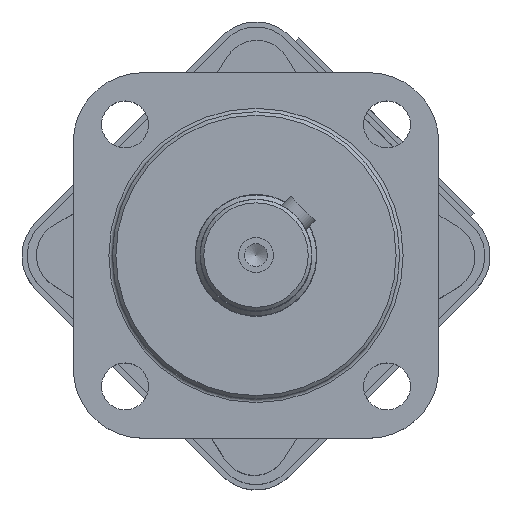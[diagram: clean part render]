
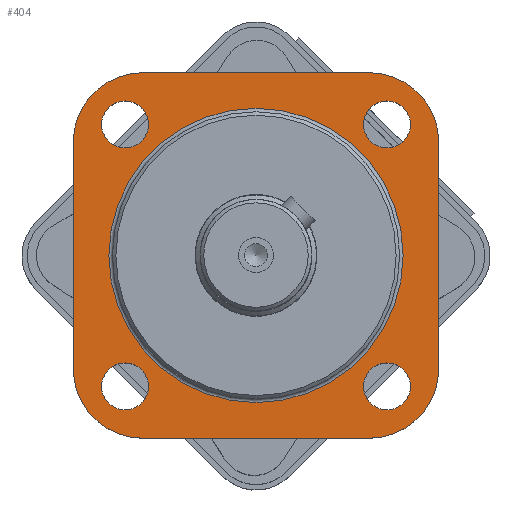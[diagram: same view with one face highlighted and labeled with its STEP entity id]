
A CAD part, top view. The second image highlights one B-rep face of the part: STEP entity #404.
In plain terms, the highlighted planar face has unit normal (0, 0, 1).
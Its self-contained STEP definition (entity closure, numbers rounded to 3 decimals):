
#259=CARTESIAN_POINT('',(-42.25,0.,18.0));
#260=VERTEX_POINT('',#259);
#261=CARTESIAN_POINT('',(0.0,0.0,18.0));
#262=DIRECTION('',(0.0,0.0,1.0));
#263=DIRECTION('',(1.0,0.0,0.0));
#264=AXIS2_PLACEMENT_3D('',#261,#262,#263);
#265=CIRCLE('',#264,42.25);
#266=EDGE_CURVE('',#260,#260,#265,.T.);
#282=CARTESIAN_POINT('',(-32.5,32.5,18.0));
#283=DIRECTION('',(0.0,0.0,1.0));
#284=DIRECTION('',(1.0,0.0,0.0));
#285=AXIS2_PLACEMENT_3D('',#282,#283,#284);
#286=PLANE('',#285);
#287=CARTESIAN_POINT('',(-32.5,52.5,18.0));
#288=VERTEX_POINT('',#287);
#289=CARTESIAN_POINT('',(-52.5,32.5,18.0));
#290=VERTEX_POINT('',#289);
#291=CARTESIAN_POINT('',(-32.5,32.5,18.0));
#292=DIRECTION('',(0.0,0.0,1.0));
#293=DIRECTION('',(1.0,0.0,0.0));
#294=AXIS2_PLACEMENT_3D('',#291,#292,#293);
#295=CIRCLE('',#294,20.0);
#296=EDGE_CURVE('',#288,#290,#295,.T.);
#297=ORIENTED_EDGE('',*,*,#296,.T.);
#298=CARTESIAN_POINT('',(-52.5,-32.5,18.0));
#299=VERTEX_POINT('',#298);
#300=CARTESIAN_POINT('',(-52.5,32.5,18.0));
#301=DIRECTION('',(0.0,-1.0,0.0));
#302=VECTOR('',#301,65.);
#303=LINE('',#300,#302);
#304=EDGE_CURVE('',#290,#299,#303,.T.);
#305=ORIENTED_EDGE('',*,*,#304,.T.);
#306=CARTESIAN_POINT('',(-32.5,-52.5,18.0));
#307=VERTEX_POINT('',#306);
#308=CARTESIAN_POINT('',(-32.5,-32.5,18.0));
#309=DIRECTION('',(0.0,0.0,1.0));
#310=DIRECTION('',(1.0,0.0,0.0));
#311=AXIS2_PLACEMENT_3D('',#308,#309,#310);
#312=CIRCLE('',#311,20.0);
#313=EDGE_CURVE('',#299,#307,#312,.T.);
#314=ORIENTED_EDGE('',*,*,#313,.T.);
#315=CARTESIAN_POINT('',(32.5,-52.5,18.0));
#316=VERTEX_POINT('',#315);
#317=CARTESIAN_POINT('',(-32.5,-52.5,18.0));
#318=DIRECTION('',(1.0,0.0,0.0));
#319=VECTOR('',#318,65.);
#320=LINE('',#317,#319);
#321=EDGE_CURVE('',#307,#316,#320,.T.);
#322=ORIENTED_EDGE('',*,*,#321,.T.);
#323=CARTESIAN_POINT('',(52.5,-32.5,18.0));
#324=VERTEX_POINT('',#323);
#325=CARTESIAN_POINT('',(32.5,-32.5,18.0));
#326=DIRECTION('',(0.0,0.0,1.0));
#327=DIRECTION('',(1.0,0.0,0.0));
#328=AXIS2_PLACEMENT_3D('',#325,#326,#327);
#329=CIRCLE('',#328,20.0);
#330=EDGE_CURVE('',#316,#324,#329,.T.);
#331=ORIENTED_EDGE('',*,*,#330,.T.);
#332=CARTESIAN_POINT('',(52.5,32.5,18.0));
#333=VERTEX_POINT('',#332);
#334=CARTESIAN_POINT('',(52.5,-32.5,18.0));
#335=DIRECTION('',(0.0,1.0,0.0));
#336=VECTOR('',#335,65.);
#337=LINE('',#334,#336);
#338=EDGE_CURVE('',#324,#333,#337,.T.);
#339=ORIENTED_EDGE('',*,*,#338,.T.);
#340=CARTESIAN_POINT('',(32.5,52.5,18.0));
#341=VERTEX_POINT('',#340);
#342=CARTESIAN_POINT('',(32.5,32.5,18.0));
#343=DIRECTION('',(0.0,0.0,1.0));
#344=DIRECTION('',(1.0,0.0,0.0));
#345=AXIS2_PLACEMENT_3D('',#342,#343,#344);
#346=CIRCLE('',#345,20.0);
#347=EDGE_CURVE('',#333,#341,#346,.T.);
#348=ORIENTED_EDGE('',*,*,#347,.T.);
#349=CARTESIAN_POINT('',(32.5,52.5,18.0));
#350=DIRECTION('',(-1.0,0.0,0.0));
#351=VECTOR('',#350,65.);
#352=LINE('',#349,#351);
#353=EDGE_CURVE('',#341,#288,#352,.T.);
#354=ORIENTED_EDGE('',*,*,#353,.T.);
#355=EDGE_LOOP('',(#297,#305,#314,#322,#331,#339,#348,#354));
#356=FACE_OUTER_BOUND('',#355,.T.);
#357=CARTESIAN_POINT('',(-30.868,37.618,18.0));
#358=VERTEX_POINT('',#357);
#359=CARTESIAN_POINT('',(-37.618,37.618,18.));
#360=DIRECTION('',(0.0,0.0,-1.0));
#361=DIRECTION('',(1.0,0.0,0.0));
#362=AXIS2_PLACEMENT_3D('',#359,#360,#361);
#363=CIRCLE('',#362,6.75);
#364=EDGE_CURVE('',#358,#358,#363,.T.);
#365=ORIENTED_EDGE('',*,*,#364,.T.);
#366=EDGE_LOOP('',(#365));
#367=FACE_BOUND('',#366,.T.);
#368=CARTESIAN_POINT('',(37.618,30.868,18.0));
#369=VERTEX_POINT('',#368);
#370=CARTESIAN_POINT('',(37.618,37.618,18.));
#371=DIRECTION('',(0.0,0.0,-1.0));
#372=DIRECTION('',(0.0,-1.0,0.0));
#373=AXIS2_PLACEMENT_3D('',#370,#371,#372);
#374=CIRCLE('',#373,6.75);
#375=EDGE_CURVE('',#369,#369,#374,.T.);
#376=ORIENTED_EDGE('',*,*,#375,.T.);
#377=EDGE_LOOP('',(#376));
#378=FACE_BOUND('',#377,.T.);
#379=CARTESIAN_POINT('',(30.868,-37.618,18.0));
#380=VERTEX_POINT('',#379);
#381=CARTESIAN_POINT('',(37.618,-37.618,18.));
#382=DIRECTION('',(0.0,0.0,-1.0));
#383=DIRECTION('',(-1.0,0.0,0.0));
#384=AXIS2_PLACEMENT_3D('',#381,#382,#383);
#385=CIRCLE('',#384,6.75);
#386=EDGE_CURVE('',#380,#380,#385,.T.);
#387=ORIENTED_EDGE('',*,*,#386,.T.);
#388=EDGE_LOOP('',(#387));
#389=FACE_BOUND('',#388,.T.);
#390=CARTESIAN_POINT('',(-37.618,-30.868,18.0));
#391=VERTEX_POINT('',#390);
#392=CARTESIAN_POINT('',(-37.618,-37.618,18.));
#393=DIRECTION('',(0.0,0.0,-1.0));
#394=DIRECTION('',(0.0,1.0,0.0));
#395=AXIS2_PLACEMENT_3D('',#392,#393,#394);
#396=CIRCLE('',#395,6.75);
#397=EDGE_CURVE('',#391,#391,#396,.T.);
#398=ORIENTED_EDGE('',*,*,#397,.T.);
#399=EDGE_LOOP('',(#398));
#400=FACE_BOUND('',#399,.T.);
#401=ORIENTED_EDGE('',*,*,#266,.F.);
#402=EDGE_LOOP('',(#401));
#403=FACE_BOUND('',#402,.T.);
#404=ADVANCED_FACE('',(#356,#367,#378,#389,#400,#403),#286,.T.);
